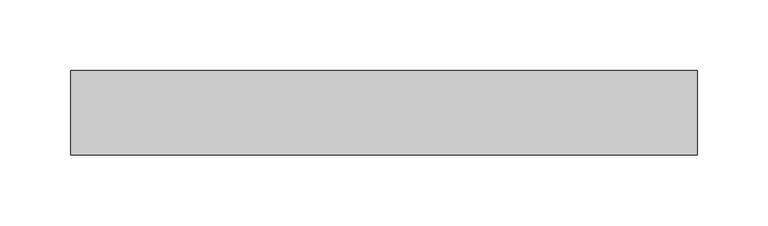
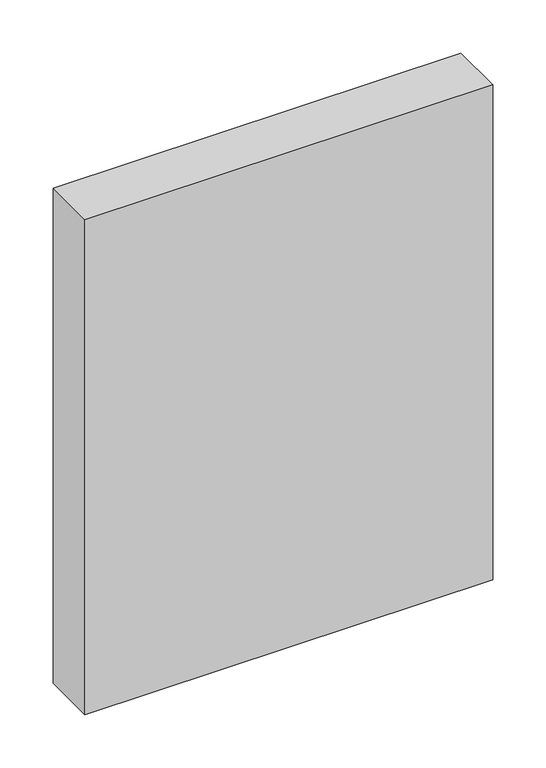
"""IFC4 building model written with IfcOpenShell, lengths in millimetres: plate geometry, Системная панель : Алюкобонд серый."""

from ifc_helpers import new_model, si_unit, origin, origin_with_axes, place, context, project, spatial, polyline, outline, extrude, source, transform, mapped, element, save


def plate_9543dead(model_context):
    return source(origin(), model_context, "Body", "SweptSolid", [
        extrude(outline(polyline([(222.0, -10.5), (-222.0, -10.5), (-222.0, 49.5), (222.0, 49.5), (222.0, -10.5)])), origin_with_axes(), (0.0, 0.0, 1.0), 570.0),
    ])


if __name__ == "__main__":
    model = new_model("IFC4")
    model_context = context("Model", 3, world=origin())
    ifc_project = project(units=[si_unit("LENGTHUNIT", "METRE", prefix="MILLI")], contexts=[model_context])
    site = spatial("IfcSite", under=ifc_project)
    building = spatial("IfcBuilding", under=site)
    placement = place(None, origin())
    plate_shape = plate_9543dead(model_context)
    element("IfcPlate", 1, ObjectType="Системная панель : Алюкобонд серый", at=placement, inside=building, context=model_context, shape_type="MappedRepresentation", body=[
        mapped(plate_shape, transform((0.0, 0.0, 0.0), x_axis=(1.0, 0.0, 0.0), y_axis=(0.0, 1.0, 0.0), z_axis=(0.0, 0.0, 1.0))),
    ])
    save(model, "model.ifc")
